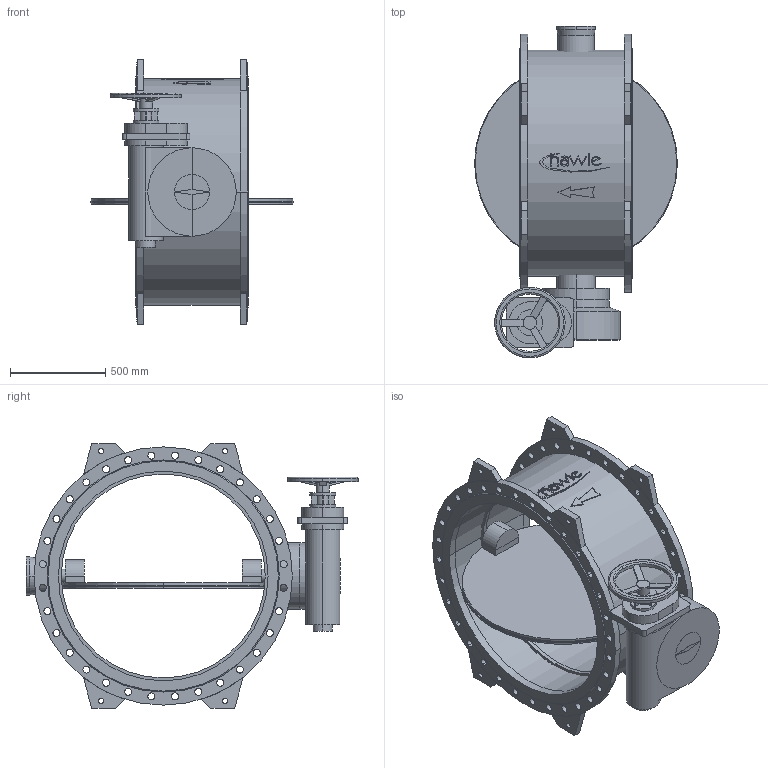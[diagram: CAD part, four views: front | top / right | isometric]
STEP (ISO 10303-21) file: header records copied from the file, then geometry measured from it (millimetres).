
FILE_DESCRIPTION(('STEP AP214'),'1');
FILE_NAME('S:/EK/USER/CAT6/3DHomepage_27-04-2012/neu_08-01-2013/9881K/9881K_PN10_DN1100_7800.STP','2013-03-11T15:24:58',(' '),(' '),'Spatial InterOp 3D',' ',' ');
FILE_SCHEMA(('automotive_design'));
Length unit declared in the file: millimetre
Products named in the file (53): 3D-Objekt
Bounding box: 1064 x 1742 x 1390 mm (x, y, z)
Volume: 234687530.4 mm3; surface area: 13089474.3 mm2
Topology: 53 solids, 53 shells, 507 faces, 1196 edges, 798 vertices
Faces by surface type: cylinder 265, plane 230, cone 8, torus 4
Entity records: 20423 total; most frequent: DIRECTION 2892, CARTESIAN_POINT 2554, ORIENTED_EDGE 2392, EDGE_CURVE 1196, AXIS2_PLACEMENT_3D 1136, VERTEX_POINT 798, EDGE_LOOP 672, LINE 620
